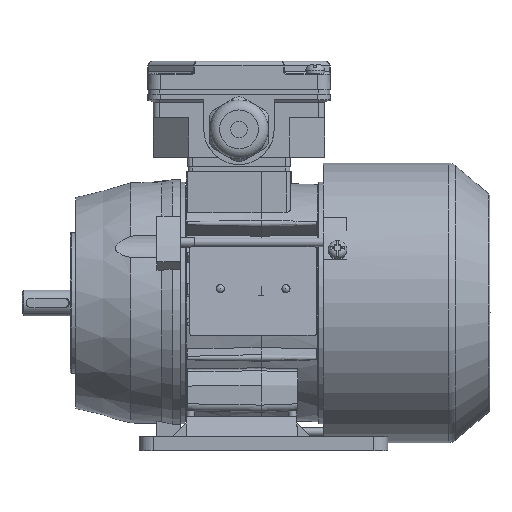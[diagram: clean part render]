
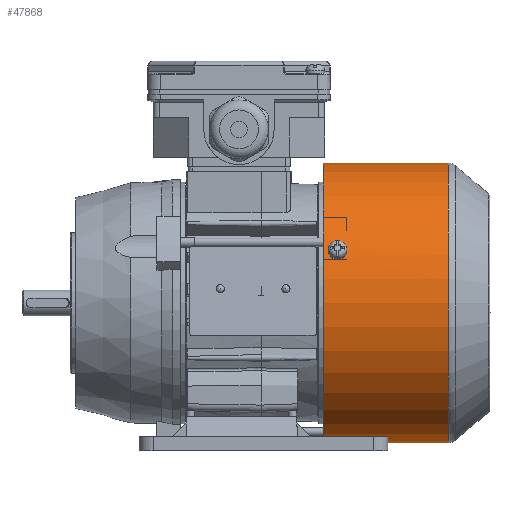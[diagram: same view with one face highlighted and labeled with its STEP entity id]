
A CAD part, front view. The second image highlights one B-rep face of the part: STEP entity #47868.
In plain terms, the highlighted cylindrical face has radius 59.6 mm (diameter 119.2 mm), a full revolution.
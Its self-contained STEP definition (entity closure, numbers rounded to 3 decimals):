
#837=B_SPLINE_CURVE_WITH_KNOTS('',3,(#71698,#71699,#71700,#71701,#71702,
#71703,#71704),.UNSPECIFIED.,.F.,.F.,(4,1,1,1,4),(0.,0.002,
0.004,0.006,0.008),
 .UNSPECIFIED.);
#839=B_SPLINE_CURVE_WITH_KNOTS('',3,(#71722,#71723,#71724,#71725,#71726,
#71727,#71728),.UNSPECIFIED.,.F.,.F.,(4,1,1,1,4),(0.,
0.002,0.004,0.006,0.008),
 .UNSPECIFIED.);
#841=B_SPLINE_CURVE_WITH_KNOTS('',3,(#71749,#71750,#71751,#71752,#71753,
#71754,#71755),.UNSPECIFIED.,.F.,.F.,(4,1,1,1,4),(0.,0.002,
0.004,0.006,0.008),
 .UNSPECIFIED.);
#843=B_SPLINE_CURVE_WITH_KNOTS('',3,(#71773,#71774,#71775,#71776,#71777,
#71778,#71779),.UNSPECIFIED.,.F.,.F.,(4,1,1,1,4),(0.,0.002,
0.004,0.006,0.008),
 .UNSPECIFIED.);
#844=B_SPLINE_CURVE_WITH_KNOTS('',3,(#71785,#71786,#71787,#71788,#71789,
#71790,#71791),.UNSPECIFIED.,.F.,.F.,(4,1,1,1,4),(0.,
0.002,0.004,0.006,0.007),
 .UNSPECIFIED.);
#845=B_SPLINE_CURVE_WITH_KNOTS('',3,(#71794,#71795,#71796,#71797,#71798,
#71799,#71800),.UNSPECIFIED.,.F.,.F.,(4,1,1,1,4),(0.,0.002,
0.004,0.006,0.007),
 .UNSPECIFIED.);
#2857=CIRCLE('',#50053,59.6);
#3289=CIRCLE('',#50937,59.6);
#3291=CIRCLE('',#50941,59.6);
#3292=CIRCLE('',#50943,59.6);
#3294=CIRCLE('',#50947,59.6);
#3296=CIRCLE('',#50952,59.6);
#11094=ORIENTED_EDGE('',*,*,#17818,.T.);
#11095=ORIENTED_EDGE('',*,*,#17815,.T.);
#11096=ORIENTED_EDGE('',*,*,#17823,.T.);
#11097=ORIENTED_EDGE('',*,*,#17821,.T.);
#11098=ORIENTED_EDGE('',*,*,#17824,.F.);
#11099=ORIENTED_EDGE('',*,*,#17825,.F.);
#11100=ORIENTED_EDGE('',*,*,#17805,.T.);
#11101=ORIENTED_EDGE('',*,*,#17802,.T.);
#11102=ORIENTED_EDGE('',*,*,#17810,.T.);
#11103=ORIENTED_EDGE('',*,*,#17808,.T.);
#11104=ORIENTED_EDGE('',*,*,#16526,.F.);
#11105=ORIENTED_EDGE('',*,*,#17811,.T.);
#16526=EDGE_CURVE('',#20885,#20885,#2857,.T.);
#17802=EDGE_CURVE('',#21744,#21747,#837,.T.);
#17805=EDGE_CURVE('',#21748,#21744,#3289,.F.);
#17808=EDGE_CURVE('',#21750,#21748,#839,.T.);
#17810=EDGE_CURVE('',#21747,#21750,#3291,.F.);
#17811=EDGE_CURVE('',#21752,#21752,#3292,.F.);
#17815=EDGE_CURVE('',#21753,#21756,#841,.T.);
#17818=EDGE_CURVE('',#21757,#21753,#3294,.F.);
#17821=EDGE_CURVE('',#21759,#21757,#843,.T.);
#17823=EDGE_CURVE('',#21756,#21759,#3296,.F.);
#17824=EDGE_CURVE('',#21761,#21762,#844,.T.);
#17825=EDGE_CURVE('',#21762,#21761,#845,.T.);
#20885=VERTEX_POINT('',#69023);
#21744=VERTEX_POINT('',#71686);
#21747=VERTEX_POINT('',#71697);
#21748=VERTEX_POINT('',#71707);
#21750=VERTEX_POINT('',#71713);
#21752=VERTEX_POINT('',#71734);
#21753=VERTEX_POINT('',#71737);
#21756=VERTEX_POINT('',#71748);
#21757=VERTEX_POINT('',#71758);
#21759=VERTEX_POINT('',#71764);
#21761=VERTEX_POINT('',#71792);
#21762=VERTEX_POINT('',#71793);
#29595=EDGE_LOOP('',(#11094,#11095,#11096,#11097));
#29596=EDGE_LOOP('',(#11098,#11099));
#29597=EDGE_LOOP('',(#11100,#11101,#11102,#11103));
#29598=EDGE_LOOP('',(#11104));
#29599=EDGE_LOOP('',(#11105));
#31896=FACE_BOUND('',#29595,.T.);
#31897=FACE_BOUND('',#29596,.T.);
#31898=FACE_BOUND('',#29597,.T.);
#31899=FACE_BOUND('',#29598,.T.);
#31900=FACE_BOUND('',#29599,.T.);
#32966=CYLINDRICAL_SURFACE('',#50953,59.6);
#47868=ADVANCED_FACE('',(#31896,#31897,#31898,#31899,#31900),#32966,.T.);
#50053=AXIS2_PLACEMENT_3D('',#69022,#56224,#56225);
#50937=AXIS2_PLACEMENT_3D('',#71710,#58817,#58818);
#50941=AXIS2_PLACEMENT_3D('',#71731,#58826,#58827);
#50943=AXIS2_PLACEMENT_3D('',#71733,#58830,#58831);
#50947=AXIS2_PLACEMENT_3D('',#71761,#58841,#58842);
#50952=AXIS2_PLACEMENT_3D('',#71783,#58852,#58853);
#50953=AXIS2_PLACEMENT_3D('',#71784,#58854,#58855);
#56224=DIRECTION('',(-1.,0.,0.));
#56225=DIRECTION('',(0.,0.,1.));
#58817=DIRECTION('',(-1.,0.,0.));
#58818=DIRECTION('',(0.,0.866,-0.5));
#58826=DIRECTION('',(1.,0.,0.));
#58827=DIRECTION('',(0.,-0.866,0.5));
#58830=DIRECTION('',(1.,0.,0.));
#58831=DIRECTION('',(0.,0.,-1.));
#58841=DIRECTION('',(-1.,0.,0.));
#58842=DIRECTION('',(0.,0.,1.));
#58852=DIRECTION('',(1.,0.,0.));
#58853=DIRECTION('',(0.,0.,-1.));
#58854=DIRECTION('',(-1.,0.,0.));
#58855=DIRECTION('',(0.,0.,1.));
#69022=CARTESIAN_POINT('',(26.5,0.,0.));
#69023=CARTESIAN_POINT('',(26.5,0.,59.6));
#71686=CARTESIAN_POINT('',(35.,46.437,37.36));
#71697=CARTESIAN_POINT('',(30.,46.437,37.36));
#71698=CARTESIAN_POINT('',(35.,46.437,37.36));
#71699=CARTESIAN_POINT('',(35.,46.023,37.874));
#71700=CARTESIAN_POINT('',(34.458,45.191,38.867));
#71701=CARTESIAN_POINT('',(32.502,44.648,39.479));
#71702=CARTESIAN_POINT('',(30.542,45.19,38.869));
#71703=CARTESIAN_POINT('',(30.,46.023,37.874));
#71704=CARTESIAN_POINT('',(30.,46.437,37.36));
#71707=CARTESIAN_POINT('',(35.,47.484,36.02));
#71710=CARTESIAN_POINT('',(35.,0.,0.));
#71713=CARTESIAN_POINT('',(30.,47.484,36.02));
#71722=CARTESIAN_POINT('',(30.,47.484,36.02));
#71723=CARTESIAN_POINT('',(30.,47.883,35.493));
#71724=CARTESIAN_POINT('',(30.542,48.645,34.446));
#71725=CARTESIAN_POINT('',(32.498,49.108,33.771));
#71726=CARTESIAN_POINT('',(34.458,48.646,34.444));
#71727=CARTESIAN_POINT('',(35.,47.883,35.493));
#71728=CARTESIAN_POINT('',(35.,47.484,36.02));
#71731=CARTESIAN_POINT('',(30.,0.,0.));
#71733=CARTESIAN_POINT('',(79.809,0.,0.));
#71734=CARTESIAN_POINT('',(79.809,0.,-59.6));
#71737=CARTESIAN_POINT('',(35.,-55.573,21.536));
#71748=CARTESIAN_POINT('',(30.,-55.573,21.536));
#71749=CARTESIAN_POINT('',(35.,-55.573,21.536));
#71750=CARTESIAN_POINT('',(35.,-55.812,20.92));
#71751=CARTESIAN_POINT('',(34.458,-56.255,19.703));
#71752=CARTESIAN_POINT('',(32.502,-56.514,18.927));
#71753=CARTESIAN_POINT('',(30.542,-56.256,19.701));
#71754=CARTESIAN_POINT('',(30.,-55.812,20.92));
#71755=CARTESIAN_POINT('',(30.,-55.573,21.536));
#71758=CARTESIAN_POINT('',(35.,-54.936,23.112));
#71761=CARTESIAN_POINT('',(35.,0.,0.));
#71764=CARTESIAN_POINT('',(30.,-54.936,23.112));
#71773=CARTESIAN_POINT('',(30.,-54.936,23.112));
#71774=CARTESIAN_POINT('',(30.,-54.68,23.721));
#71775=CARTESIAN_POINT('',(30.542,-54.154,24.905));
#71776=CARTESIAN_POINT('',(32.498,-53.8,25.643));
#71777=CARTESIAN_POINT('',(34.458,-54.153,24.907));
#71778=CARTESIAN_POINT('',(35.,-54.68,23.721));
#71779=CARTESIAN_POINT('',(35.,-54.936,23.112));
#71783=CARTESIAN_POINT('',(30.,0.,0.));
#71784=CARTESIAN_POINT('',(-33.5,0.,0.));
#71785=CARTESIAN_POINT('',(35.,8.295,-59.02));
#71786=CARTESIAN_POINT('',(34.937,7.681,-59.106));
#71787=CARTESIAN_POINT('',(34.356,6.499,-59.249));
#71788=CARTESIAN_POINT('',(32.502,5.777,-59.318));
#71789=CARTESIAN_POINT('',(30.649,6.493,-59.25));
#71790=CARTESIAN_POINT('',(30.063,7.681,-59.106));
#71791=CARTESIAN_POINT('',(30.,8.295,-59.02));
#71792=CARTESIAN_POINT('',(35.,8.295,-59.02));
#71793=CARTESIAN_POINT('',(30.,8.295,-59.02));
#71794=CARTESIAN_POINT('',(30.,8.295,-59.02));
#71795=CARTESIAN_POINT('',(30.063,8.908,-58.934));
#71796=CARTESIAN_POINT('',(30.644,10.084,-58.746));
#71797=CARTESIAN_POINT('',(32.498,10.797,-58.613));
#71798=CARTESIAN_POINT('',(34.351,10.09,-58.745));
#71799=CARTESIAN_POINT('',(34.937,8.908,-58.934));
#71800=CARTESIAN_POINT('',(35.,8.295,-59.02));
